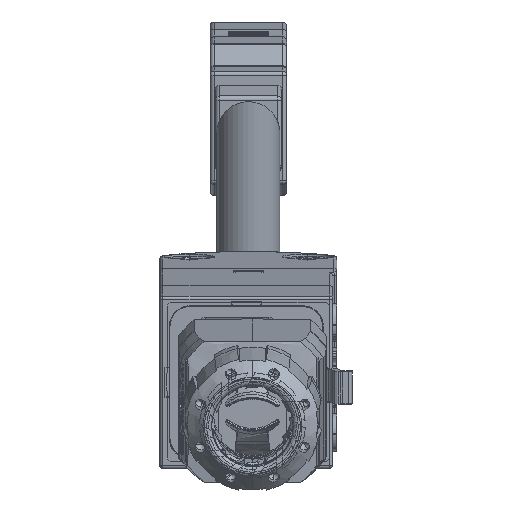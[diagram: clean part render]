
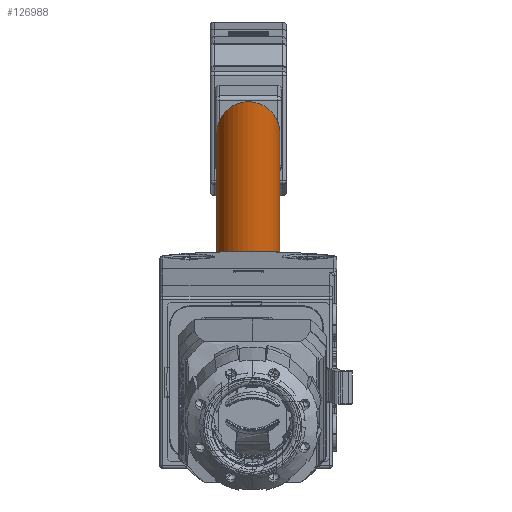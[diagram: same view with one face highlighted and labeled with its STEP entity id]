
A CAD part, top view. The second image highlights one B-rep face of the part: STEP entity #126988.
In plain terms, the highlighted cylindrical face has radius 3.1 mm (diameter 6.2 mm), a partial arc.
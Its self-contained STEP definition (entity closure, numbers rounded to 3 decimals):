
#1510 = VERTEX_POINT ( 'NONE', #19965 ) ;
#6453 = DIRECTION ( 'NONE',  ( 1., 0., 0. ) ) ;
#12400 = CARTESIAN_POINT ( 'NONE',  ( 38.789, 215.933, 140.791 ) ) ;
#19965 = CARTESIAN_POINT ( 'NONE',  ( 32.589, 215.933, 140.791 ) ) ;
#33213 = DIRECTION ( 'NONE',  ( 0., 0.1, -0.995 ) ) ;
#37145 = DIRECTION ( 'NONE',  ( 1., 0., 0. ) ) ;
#43265 = CARTESIAN_POINT ( 'NONE',  ( 35.689, 237.007, -68.149 ) ) ;
#45926 = ORIENTED_EDGE ( 'NONE', *, *, #103090, .F. ) ;
#50246 = CIRCLE ( 'NONE', #244650, 3.1 ) ;
#83900 = AXIS2_PLACEMENT_3D ( 'NONE', #43265, #292791, #117897 ) ;
#91437 = DIRECTION ( 'NONE',  ( 0., 0.1, -0.995 ) ) ;
#95237 = DIRECTION ( 'NONE',  ( 0., 0.1, -0.995 ) ) ;
#103090 = EDGE_CURVE ( 'NONE', #1510, #277145, #158463, .T. ) ;
#105963 = CARTESIAN_POINT ( 'NONE',  ( 32.589, 237.007, -68.149 ) ) ;
#109865 = CARTESIAN_POINT ( 'NONE',  ( 38.789, 237.007, -68.149 ) ) ;
#117897 = DIRECTION ( 'NONE',  ( 1., 0., 0. ) ) ;
#120686 = EDGE_LOOP ( 'NONE', ( #45926, #136877, #274435, #318314 ) ) ;
#126988 = ADVANCED_FACE ( 'NONE', ( #321110 ), #153673, .T. ) ;
#136877 = ORIENTED_EDGE ( 'NONE', *, *, #307108, .T. ) ;
#142003 = EDGE_CURVE ( 'NONE', #255295, #303943, #261050, .T. ) ;
#153673 = CYLINDRICAL_SURFACE ( 'NONE', #222773, 3.1 ) ;
#158463 = LINE ( 'NONE', #218895, #246000 ) ;
#189707 = DIRECTION ( 'NONE',  ( 0., 0.1, -0.995 ) ) ;
#218100 = CARTESIAN_POINT ( 'NONE',  ( 35.689, 215.933, 140.791 ) ) ;
#218895 = CARTESIAN_POINT ( 'NONE',  ( 32.589, 215.933, 140.791 ) ) ;
#222773 = AXIS2_PLACEMENT_3D ( 'NONE', #314415, #189707, #37145 ) ;
#244650 = AXIS2_PLACEMENT_3D ( 'NONE', #218100, #33213, #6453 ) ;
#246000 = VECTOR ( 'NONE', #95237, 1000. ) ;
#255295 = VERTEX_POINT ( 'NONE', #277897 ) ;
#261050 = LINE ( 'NONE', #12400, #308976 ) ;
#274435 = ORIENTED_EDGE ( 'NONE', *, *, #142003, .T. ) ;
#277145 = VERTEX_POINT ( 'NONE', #105963 ) ;
#277897 = CARTESIAN_POINT ( 'NONE',  ( 38.789, 215.933, 140.791 ) ) ;
#279964 = EDGE_CURVE ( 'NONE', #277145, #303943, #296949, .T. ) ;
#292791 = DIRECTION ( 'NONE',  ( 0., 0.1, -0.995 ) ) ;
#296949 = CIRCLE ( 'NONE', #83900, 3.1 ) ;
#303943 = VERTEX_POINT ( 'NONE', #109865 ) ;
#307108 = EDGE_CURVE ( 'NONE', #1510, #255295, #50246, .T. ) ;
#308976 = VECTOR ( 'NONE', #91437, 1000. ) ;
#314415 = CARTESIAN_POINT ( 'NONE',  ( 35.689, 215.933, 140.791 ) ) ;
#318314 = ORIENTED_EDGE ( 'NONE', *, *, #279964, .F. ) ;
#321110 = FACE_OUTER_BOUND ( 'NONE', #120686, .T. ) ;
